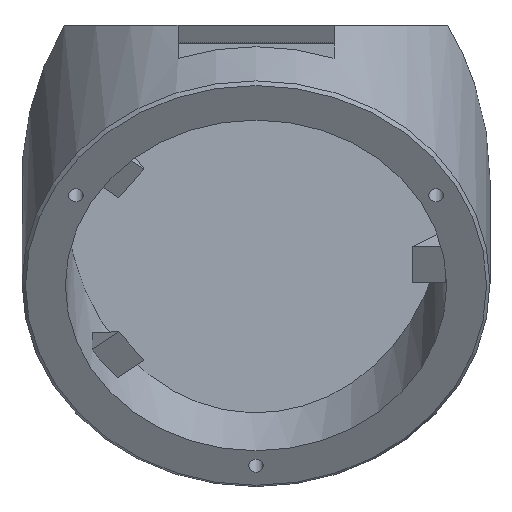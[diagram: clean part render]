
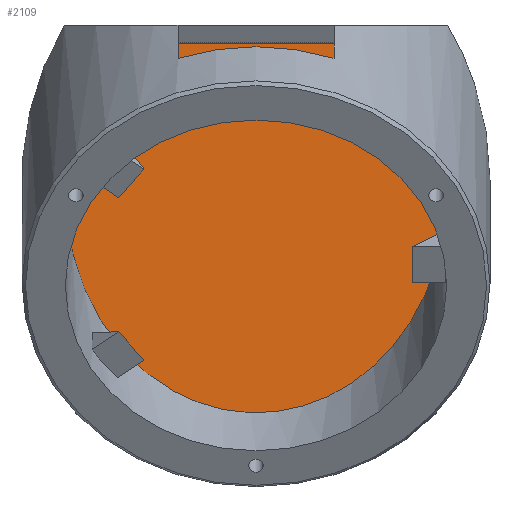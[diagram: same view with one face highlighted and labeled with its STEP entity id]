
A CAD part, top view. The second image highlights one B-rep face of the part: STEP entity #2109.
In plain terms, the highlighted planar face has unit normal (0, 0, 1).
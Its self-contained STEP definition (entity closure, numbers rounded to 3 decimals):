
#551 = CYLINDRICAL_SURFACE('',#552,22.);
#552 = AXIS2_PLACEMENT_3D('',#553,#554,#555);
#553 = CARTESIAN_POINT('',(0.,45.,-56.942));
#554 = DIRECTION('',(-0.,0.5,-0.866));
#555 = DIRECTION('',(1.,0.,0.));
#577 = PLANE('',#578);
#578 = AXIS2_PLACEMENT_3D('',#579,#580,#581);
#579 = CARTESIAN_POINT('',(-125.,28.,-125.));
#580 = DIRECTION('',(0.,1.,0.));
#581 = DIRECTION('',(0.,0.,1.));
#912 = VERTEX_POINT('',#913);
#913 = CARTESIAN_POINT('',(16.141,28.,2.4));
#941 = EDGE_CURVE('',#912,#942,#944,.T.);
#942 = VERTEX_POINT('',#943);
#943 = CARTESIAN_POINT('',(-16.141,28.,2.4));
#944 = SURFACE_CURVE('',#945,(#949,#955),.PCURVE_S1.);
#945 = LINE('',#946,#947);
#946 = CARTESIAN_POINT('',(-125.,28.,2.4));
#947 = VECTOR('',#948,1.);
#948 = DIRECTION('',(-1.,0.,0.));
#949 = PCURVE('',#577,#950);
#950 = DEFINITIONAL_REPRESENTATION('',(#951),#954);
#951 = B_SPLINE_CURVE_WITH_KNOTS('',1,(#952,#953),.UNSPECIFIED.,.F.,.F.,
  (2,2),(-147.,-103.),.PIECEWISE_BEZIER_KNOTS.);
#952 = CARTESIAN_POINT('',(127.4,147.));
#953 = CARTESIAN_POINT('',(127.4,103.));
#954 = ( GEOMETRIC_REPRESENTATION_CONTEXT(2) 
PARAMETRIC_REPRESENTATION_CONTEXT() REPRESENTATION_CONTEXT('2D SPACE',''
  ) );
#955 = PCURVE('',#956,#961);
#956 = PLANE('',#957);
#957 = AXIS2_PLACEMENT_3D('',#958,#959,#960);
#958 = CARTESIAN_POINT('',(-125.,-125.,2.4));
#959 = DIRECTION('',(0.,0.,1.));
#960 = DIRECTION('',(1.,0.,0.));
#961 = DEFINITIONAL_REPRESENTATION('',(#962),#965);
#962 = B_SPLINE_CURVE_WITH_KNOTS('',1,(#963,#964),.UNSPECIFIED.,.F.,.F.,
  (2,2),(-147.,-103.),.PIECEWISE_BEZIER_KNOTS.);
#963 = CARTESIAN_POINT('',(147.,153.));
#964 = CARTESIAN_POINT('',(103.,153.));
#965 = ( GEOMETRIC_REPRESENTATION_CONTEXT(2) 
PARAMETRIC_REPRESENTATION_CONTEXT() REPRESENTATION_CONTEXT('2D SPACE',''
  ) );
#1002 = VERTEX_POINT('',#1003);
#1003 = CARTESIAN_POINT('',(22.,10.739,2.4));
#1026 = EDGE_CURVE('',#942,#1002,#1027,.T.);
#1027 = SURFACE_CURVE('',#1028,(#1033,#1074),.PCURVE_S1.);
#1028 = ELLIPSE('',#1029,25.403,22.);
#1029 = AXIS2_PLACEMENT_3D('',#1030,#1031,#1032);
#1030 = CARTESIAN_POINT('',(0.,10.739,2.4));
#1031 = DIRECTION('',(0.,0.,1.));
#1032 = DIRECTION('',(0.,1.,-0.));
#1033 = PCURVE('',#551,#1034);
#1034 = DEFINITIONAL_REPRESENTATION('',(#1035),#1073);
#1035 = B_SPLINE_CURVE_WITH_KNOTS('',8,(#1036,#1037,#1038,#1039,#1040,
    #1041,#1042,#1043,#1044,#1045,#1046,#1047,#1048,#1049,#1050,#1051,
    #1052,#1053,#1054,#1055,#1056,#1057,#1058,#1059,#1060,#1061,#1062,
    #1063,#1064,#1065,#1066,#1067,#1068,#1069,#1070,#1071,#1072),
  .UNSPECIFIED.,.F.,.F.,(9,7,7,7,7,9),(4.712,6.283,
    7.461,8.345,9.67,10.996),
  .UNSPECIFIED.);
#1036 = CARTESIAN_POINT('',(0.,-68.523));
#1037 = CARTESIAN_POINT('',(-0.196,-66.029));
#1038 = CARTESIAN_POINT('',(-0.393,-63.535));
#1039 = CARTESIAN_POINT('',(-0.589,-61.187));
#1040 = CARTESIAN_POINT('',(-0.785,-59.133));
#1041 = CARTESIAN_POINT('',(-0.982,-57.5));
#1042 = CARTESIAN_POINT('',(-1.178,-56.381));
#1043 = CARTESIAN_POINT('',(-1.374,-55.821));
#1044 = CARTESIAN_POINT('',(-1.718,-55.821));
#1045 = CARTESIAN_POINT('',(-1.865,-56.136));
#1046 = CARTESIAN_POINT('',(-2.013,-56.765));
#1047 = CARTESIAN_POINT('',(-2.16,-57.695));
#1048 = CARTESIAN_POINT('',(-2.307,-58.896));
#1049 = CARTESIAN_POINT('',(-2.454,-60.326));
#1050 = CARTESIAN_POINT('',(-2.602,-61.934));
#1051 = CARTESIAN_POINT('',(-2.859,-64.958));
#1052 = CARTESIAN_POINT('',(-2.97,-66.322));
#1053 = CARTESIAN_POINT('',(-3.08,-67.729));
#1054 = CARTESIAN_POINT('',(-3.191,-69.155));
#1055 = CARTESIAN_POINT('',(-3.301,-70.571));
#1056 = CARTESIAN_POINT('',(-3.412,-71.952));
#1057 = CARTESIAN_POINT('',(-3.522,-73.273));
#1058 = CARTESIAN_POINT('',(-3.798,-76.366));
#1059 = CARTESIAN_POINT('',(-3.964,-78.034));
#1060 = CARTESIAN_POINT('',(-4.129,-79.437));
#1061 = CARTESIAN_POINT('',(-4.295,-80.507));
#1062 = CARTESIAN_POINT('',(-4.461,-81.197));
#1063 = CARTESIAN_POINT('',(-4.626,-81.48));
#1064 = CARTESIAN_POINT('',(-4.792,-81.355));
#1065 = CARTESIAN_POINT('',(-5.123,-80.332));
#1066 = CARTESIAN_POINT('',(-5.289,-79.435));
#1067 = CARTESIAN_POINT('',(-5.455,-78.172));
#1068 = CARTESIAN_POINT('',(-5.621,-76.588));
#1069 = CARTESIAN_POINT('',(-5.786,-74.747));
#1070 = CARTESIAN_POINT('',(-5.952,-72.731));
#1071 = CARTESIAN_POINT('',(-6.118,-70.627));
#1072 = CARTESIAN_POINT('',(-6.283,-68.523));
#1073 = ( GEOMETRIC_REPRESENTATION_CONTEXT(2) 
PARAMETRIC_REPRESENTATION_CONTEXT() REPRESENTATION_CONTEXT('2D SPACE',''
  ) );
#1074 = PCURVE('',#956,#1075);
#1075 = DEFINITIONAL_REPRESENTATION('',(#1076),#1080);
#1076 = ELLIPSE('',#1077,25.403,22.);
#1077 = AXIS2_PLACEMENT_2D('',#1078,#1079);
#1078 = CARTESIAN_POINT('',(125.,135.739));
#1079 = DIRECTION('',(0.,1.));
#1080 = ( GEOMETRIC_REPRESENTATION_CONTEXT(2) 
PARAMETRIC_REPRESENTATION_CONTEXT() REPRESENTATION_CONTEXT('2D SPACE',''
  ) );
#1299 = EDGE_CURVE('',#1002,#912,#1300,.T.);
#1300 = SURFACE_CURVE('',#1301,(#1306,#1347),.PCURVE_S1.);
#1301 = ELLIPSE('',#1302,25.403,22.);
#1302 = AXIS2_PLACEMENT_3D('',#1303,#1304,#1305);
#1303 = CARTESIAN_POINT('',(0.,10.739,2.4));
#1304 = DIRECTION('',(0.,0.,1.));
#1305 = DIRECTION('',(0.,1.,-0.));
#1306 = PCURVE('',#551,#1307);
#1307 = DEFINITIONAL_REPRESENTATION('',(#1308),#1346);
#1308 = B_SPLINE_CURVE_WITH_KNOTS('',8,(#1309,#1310,#1311,#1312,#1313,
    #1314,#1315,#1316,#1317,#1318,#1319,#1320,#1321,#1322,#1323,#1324,
    #1325,#1326,#1327,#1328,#1329,#1330,#1331,#1332,#1333,#1334,#1335,
    #1336,#1337,#1338,#1339,#1340,#1341,#1342,#1343,#1344,#1345),
  .UNSPECIFIED.,.F.,.F.,(9,7,7,7,7,9),(4.712,6.283,
    7.461,8.345,9.67,10.996),
  .UNSPECIFIED.);
#1309 = CARTESIAN_POINT('',(0.,-68.523));
#1310 = CARTESIAN_POINT('',(-0.196,-66.029));
#1311 = CARTESIAN_POINT('',(-0.393,-63.535));
#1312 = CARTESIAN_POINT('',(-0.589,-61.187));
#1313 = CARTESIAN_POINT('',(-0.785,-59.133));
#1314 = CARTESIAN_POINT('',(-0.982,-57.5));
#1315 = CARTESIAN_POINT('',(-1.178,-56.381));
#1316 = CARTESIAN_POINT('',(-1.374,-55.821));
#1317 = CARTESIAN_POINT('',(-1.718,-55.821));
#1318 = CARTESIAN_POINT('',(-1.865,-56.136));
#1319 = CARTESIAN_POINT('',(-2.013,-56.765));
#1320 = CARTESIAN_POINT('',(-2.16,-57.695));
#1321 = CARTESIAN_POINT('',(-2.307,-58.896));
#1322 = CARTESIAN_POINT('',(-2.454,-60.326));
#1323 = CARTESIAN_POINT('',(-2.602,-61.934));
#1324 = CARTESIAN_POINT('',(-2.859,-64.958));
#1325 = CARTESIAN_POINT('',(-2.97,-66.322));
#1326 = CARTESIAN_POINT('',(-3.08,-67.729));
#1327 = CARTESIAN_POINT('',(-3.191,-69.155));
#1328 = CARTESIAN_POINT('',(-3.301,-70.571));
#1329 = CARTESIAN_POINT('',(-3.412,-71.952));
#1330 = CARTESIAN_POINT('',(-3.522,-73.273));
#1331 = CARTESIAN_POINT('',(-3.798,-76.366));
#1332 = CARTESIAN_POINT('',(-3.964,-78.034));
#1333 = CARTESIAN_POINT('',(-4.129,-79.437));
#1334 = CARTESIAN_POINT('',(-4.295,-80.507));
#1335 = CARTESIAN_POINT('',(-4.461,-81.197));
#1336 = CARTESIAN_POINT('',(-4.626,-81.48));
#1337 = CARTESIAN_POINT('',(-4.792,-81.355));
#1338 = CARTESIAN_POINT('',(-5.123,-80.332));
#1339 = CARTESIAN_POINT('',(-5.289,-79.435));
#1340 = CARTESIAN_POINT('',(-5.455,-78.172));
#1341 = CARTESIAN_POINT('',(-5.621,-76.588));
#1342 = CARTESIAN_POINT('',(-5.786,-74.747));
#1343 = CARTESIAN_POINT('',(-5.952,-72.731));
#1344 = CARTESIAN_POINT('',(-6.118,-70.627));
#1345 = CARTESIAN_POINT('',(-6.283,-68.523));
#1346 = ( GEOMETRIC_REPRESENTATION_CONTEXT(2) 
PARAMETRIC_REPRESENTATION_CONTEXT() REPRESENTATION_CONTEXT('2D SPACE',''
  ) );
#1347 = PCURVE('',#956,#1348);
#1348 = DEFINITIONAL_REPRESENTATION('',(#1349),#1353);
#1349 = ELLIPSE('',#1350,25.403,22.);
#1350 = AXIS2_PLACEMENT_2D('',#1351,#1352);
#1351 = CARTESIAN_POINT('',(125.,135.739));
#1352 = DIRECTION('',(0.,1.));
#1353 = ( GEOMETRIC_REPRESENTATION_CONTEXT(2) 
PARAMETRIC_REPRESENTATION_CONTEXT() REPRESENTATION_CONTEXT('2D SPACE',''
  ) );
#2109 = ADVANCED_FACE('',(#2110),#956,.T.);
#2110 = FACE_BOUND('',#2111,.T.);
#2111 = EDGE_LOOP('',(#2112,#2113,#2114));
#2112 = ORIENTED_EDGE('',*,*,#1026,.T.);
#2113 = ORIENTED_EDGE('',*,*,#1299,.T.);
#2114 = ORIENTED_EDGE('',*,*,#941,.T.);
